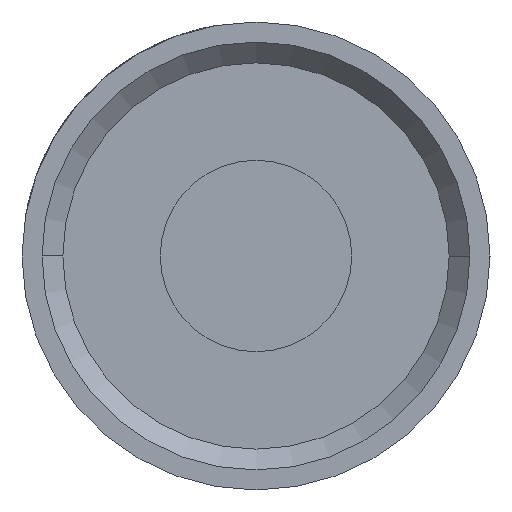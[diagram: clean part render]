
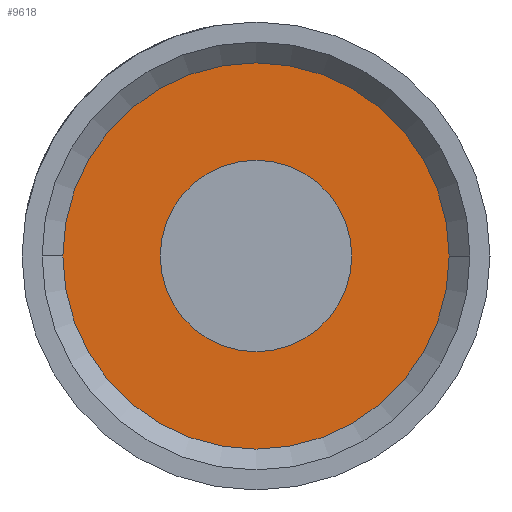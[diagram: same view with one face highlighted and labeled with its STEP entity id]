
A CAD part, left-side view. The second image highlights one B-rep face of the part: STEP entity #9618.
In plain terms, the highlighted planar face has unit normal (-1, 0, 0).
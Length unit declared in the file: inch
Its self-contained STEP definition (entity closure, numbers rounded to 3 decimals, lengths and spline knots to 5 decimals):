
#53 = DIRECTION ( 'NONE',  ( 0., -1., 0. ) ) ;
#788 = ORIENTED_EDGE ( 'NONE', *, *, #8618, .F. ) ;
#1043 = EDGE_LOOP ( 'NONE', ( #788, #12362 ) ) ;
#1242 = CIRCLE ( 'NONE', #7121, 0.11602 ) ;
#1858 = EDGE_CURVE ( 'NONE', #7563, #4786, #13649, .T. ) ;
#1975 = DIRECTION ( 'NONE',  ( -1., 0., 0. ) ) ;
#2517 = DIRECTION ( 'NONE',  ( 0., -1., 0. ) ) ;
#2828 = DIRECTION ( 'NONE',  ( 0., 1., 0. ) ) ;
#3098 = CARTESIAN_POINT ( 'NONE',  ( 0., -0.0575, 0. ) ) ;
#3484 = AXIS2_PLACEMENT_3D ( 'NONE', #5803, #3819, #2828 ) ;
#3498 = CARTESIAN_POINT ( 'NONE',  ( 0., 0., 0. ) ) ;
#3612 = FACE_OUTER_BOUND ( 'NONE', #11202, .T. ) ;
#3618 = ORIENTED_EDGE ( 'NONE', *, *, #5922, .T. ) ;
#3819 = DIRECTION ( 'NONE',  ( 1., 0., 0. ) ) ;
#4467 = EDGE_CURVE ( 'NONE', #6572, #5812, #1242, .T. ) ;
#4786 = VERTEX_POINT ( 'NONE', #3098 ) ;
#4900 = CARTESIAN_POINT ( 'NONE',  ( 0., 0.11602, 0. ) ) ;
#5338 = CARTESIAN_POINT ( 'NONE',  ( 0., 0., 0. ) ) ;
#5803 = CARTESIAN_POINT ( 'NONE',  ( 0., 0.0575, 0. ) ) ;
#5812 = VERTEX_POINT ( 'NONE', #4900 ) ;
#5922 = EDGE_CURVE ( 'NONE', #5812, #6572, #9613, .T. ) ;
#6205 = CARTESIAN_POINT ( 'NONE',  ( 0., -0.11602, 0. ) ) ;
#6232 = AXIS2_PLACEMENT_3D ( 'NONE', #11920, #7752, #53 ) ;
#6572 = VERTEX_POINT ( 'NONE', #6205 ) ;
#7121 = AXIS2_PLACEMENT_3D ( 'NONE', #5338, #9654, #8586 ) ;
#7478 = CARTESIAN_POINT ( 'NONE',  ( 0., 0., 0. ) ) ;
#7563 = VERTEX_POINT ( 'NONE', #13419 ) ;
#7752 = DIRECTION ( 'NONE',  ( -1., 0., 0. ) ) ;
#7804 = DIRECTION ( 'NONE',  ( 0., -1., 0. ) ) ;
#8586 = DIRECTION ( 'NONE',  ( 0., -1., 0. ) ) ;
#8618 = EDGE_CURVE ( 'NONE', #4786, #7563, #8956, .T. ) ;
#8681 = AXIS2_PLACEMENT_3D ( 'NONE', #3498, #1975, #7804 ) ;
#8956 = CIRCLE ( 'NONE', #13863, 0.0575 ) ;
#9130 = FACE_BOUND ( 'NONE', #1043, .T. ) ;
#9613 = CIRCLE ( 'NONE', #6232, 0.11602 ) ;
#9618 = ADVANCED_FACE ( 'NONE', ( #9130, #3612 ), #12514, .F. ) ;
#9654 = DIRECTION ( 'NONE',  ( -1., 0., 0. ) ) ;
#11079 = ORIENTED_EDGE ( 'NONE', *, *, #4467, .T. ) ;
#11202 = EDGE_LOOP ( 'NONE', ( #11079, #3618 ) ) ;
#11920 = CARTESIAN_POINT ( 'NONE',  ( 0., 0., 0. ) ) ;
#12362 = ORIENTED_EDGE ( 'NONE', *, *, #1858, .F. ) ;
#12514 = PLANE ( 'NONE',  #3484 ) ;
#13337 = DIRECTION ( 'NONE',  ( -1., 0., 0. ) ) ;
#13419 = CARTESIAN_POINT ( 'NONE',  ( 0., 0.0575, 0. ) ) ;
#13649 = CIRCLE ( 'NONE', #8681, 0.0575 ) ;
#13863 = AXIS2_PLACEMENT_3D ( 'NONE', #7478, #13337, #2517 ) ;
